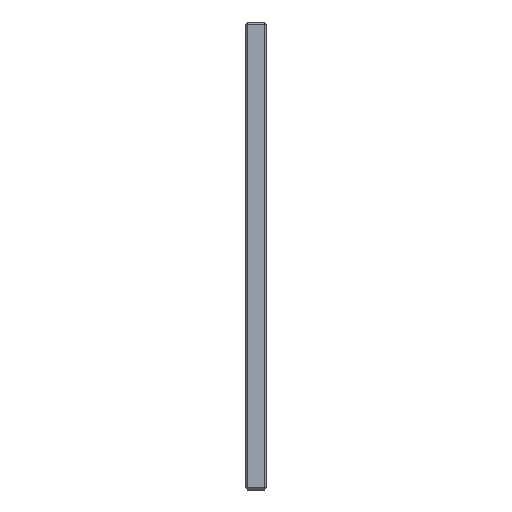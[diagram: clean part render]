
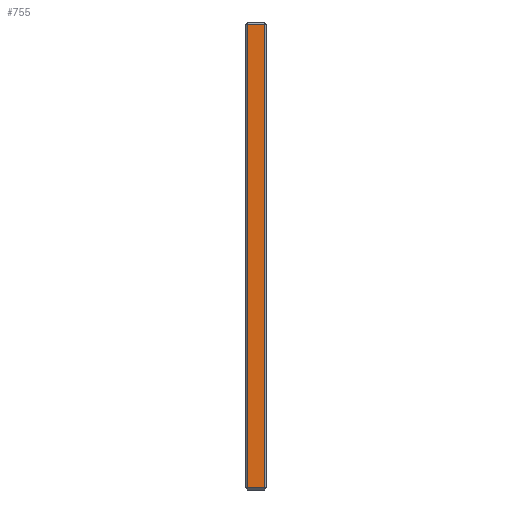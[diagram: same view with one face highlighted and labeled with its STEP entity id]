
A CAD part, left-side view. The second image highlights one B-rep face of the part: STEP entity #755.
In plain terms, the highlighted planar face has unit normal (-1, 0, 0).
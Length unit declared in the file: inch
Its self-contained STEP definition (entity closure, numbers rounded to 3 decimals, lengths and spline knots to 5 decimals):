
#12 = CARTESIAN_POINT ( 'NONE',  ( -8.9375, 0.5, -5.375 ) ) ;
#91 = LINE ( 'NONE', #1222, #345 ) ;
#99 = EDGE_LOOP ( 'NONE', ( #1648, #1450, #304, #128 ) ) ;
#128 = ORIENTED_EDGE ( 'NONE', *, *, #1752, .T. ) ;
#157 = CARTESIAN_POINT ( 'NONE',  ( -8.9375, 0.05, 5.325 ) ) ;
#160 = DIRECTION ( 'NONE',  ( 0., 0., -1. ) ) ;
#220 = EDGE_CURVE ( 'NONE', #1219, #809, #1157, .T. ) ;
#226 = AXIS2_PLACEMENT_3D ( 'NONE', #12, #1036, #160 ) ;
#267 = VECTOR ( 'NONE', #718, 39.37008 ) ;
#304 = ORIENTED_EDGE ( 'NONE', *, *, #220, .T. ) ;
#345 = VECTOR ( 'NONE', #1368, 39.37008 ) ;
#392 = LINE ( 'NONE', #1871, #267 ) ;
#705 = VERTEX_POINT ( 'NONE', #1730 ) ;
#718 = DIRECTION ( 'NONE',  ( 0., 1., 0. ) ) ;
#725 = CARTESIAN_POINT ( 'NONE',  ( -8.9375, 0.5, -5.325 ) ) ;
#755 = ADVANCED_FACE ( 'Placement Plane', ( #1468 ), #904, .F. ) ;
#781 = VECTOR ( 'NONE', #1598, 39.37008 ) ;
#809 = VERTEX_POINT ( 'NONE', #157 ) ;
#904 = PLANE ( 'NONE',  #226 ) ;
#1036 = DIRECTION ( 'NONE',  ( 1., 0., 0. ) ) ;
#1121 = DIRECTION ( 'NONE',  ( 0., 0., 1. ) ) ;
#1157 = LINE ( 'NONE', #1394, #1836 ) ;
#1219 = VERTEX_POINT ( 'NONE', #1586 ) ;
#1222 = CARTESIAN_POINT ( 'NONE',  ( -8.9375, 0.45, -5.375 ) ) ;
#1227 = EDGE_CURVE ( 'NONE', #1383, #1219, #1556, .T. ) ;
#1368 = DIRECTION ( 'NONE',  ( 0., 0., -1. ) ) ;
#1383 = VERTEX_POINT ( 'NONE', #1796 ) ;
#1394 = CARTESIAN_POINT ( 'NONE',  ( -8.9375, 0.05, -5.375 ) ) ;
#1450 = ORIENTED_EDGE ( 'NONE', *, *, #1227, .T. ) ;
#1460 = EDGE_CURVE ( 'NONE', #705, #1383, #91, .T. ) ;
#1468 = FACE_OUTER_BOUND ( 'NONE', #99, .T. ) ;
#1556 = LINE ( 'NONE', #725, #781 ) ;
#1586 = CARTESIAN_POINT ( 'NONE',  ( -8.9375, 0.05, -5.325 ) ) ;
#1598 = DIRECTION ( 'NONE',  ( 0., -1., 0. ) ) ;
#1648 = ORIENTED_EDGE ( 'NONE', *, *, #1460, .T. ) ;
#1730 = CARTESIAN_POINT ( 'NONE',  ( -8.9375, 0.45, 5.325 ) ) ;
#1752 = EDGE_CURVE ( 'NONE', #809, #705, #392, .T. ) ;
#1796 = CARTESIAN_POINT ( 'NONE',  ( -8.9375, 0.45, -5.325 ) ) ;
#1836 = VECTOR ( 'NONE', #1121, 39.37008 ) ;
#1871 = CARTESIAN_POINT ( 'NONE',  ( -8.9375, 0.5, 5.325 ) ) ;
